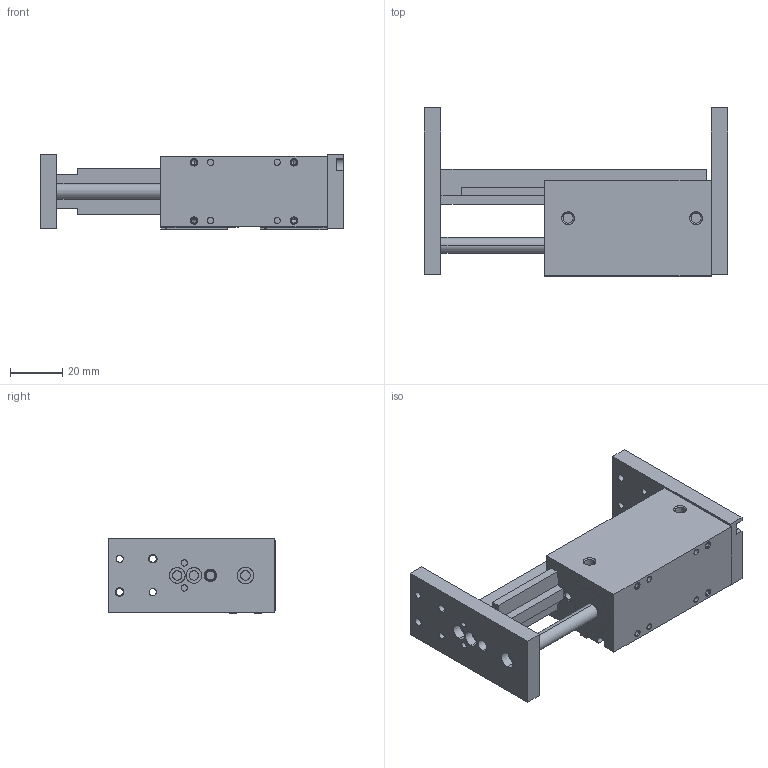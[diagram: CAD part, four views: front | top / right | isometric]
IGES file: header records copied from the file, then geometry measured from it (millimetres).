
Start section: SolidWorks IGES file using analytic representation for surfaces
Global section: file name: C:\Users\jmkuhnes\Pictures\My Transfers\AGPS\AGPS-2-3\AGPS-2-3 OPEN in MM.IGS; native system: SolidWorks 2013; preprocessor: SolidWorks 2013; author: jmkuhnes; date: 141121.135503; units: millimetre
Bounding box: 115.89 x 64.16 x 29 mm (x, y, z)
Surface area: 34878.9 mm2 (no closed solid volume)
Topology: 0 solids, 0 shells, 299 faces, 5026 edges, 5012 vertices
Faces by surface type: revolution 181, bspline 118
